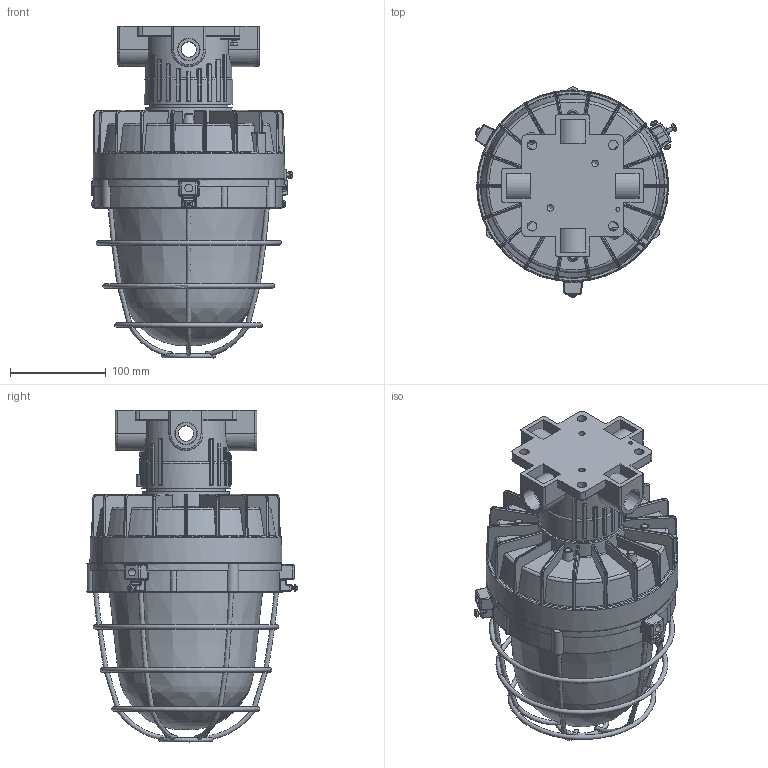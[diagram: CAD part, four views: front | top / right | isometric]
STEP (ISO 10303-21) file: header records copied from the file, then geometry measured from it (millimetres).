
FILE_DESCRIPTION((''),'2;1');
FILE_NAME('\\FILE-SERVER\cortem_klient\Чертежи ПО ИСХ.НОМЕРАМ\Стандарт\СГЖ01\Новая папка\СГЖ01-4960С_П_12DC.stp','2017-04-18T09:34:50',('A.I.Eshenko'),(''),'Autodesk Inventor 2012','Autodesk Inventor 2012','');
FILE_SCHEMA(('AUTOMOTIVE_DESIGN { 1 0 10303 214 1 1 1 1 }'));
Length unit declared in the file: millimetre
Products named in the file (1): СГЖ01-4960С_П_12DC_Внешний контур_1
Bounding box: 210.51 x 219.59 x 347.11 mm (x, y, z)
Surface area: 626856.4 mm2 (no closed solid volume)
Topology: 0 solids, 19 shells, 2151 faces, 5568 edges, 3505 vertices
Faces by surface type: plane 855, cylinder 520, cone 323, bspline 187, torus 161, sphere 81, revolution 24
Full cylindrical faces by diameter (mm): 3 x3, 3.2 x2, 3.242 x11, 3.65 x6, 4 x6, 4.1 x3, 4.4 x2, 4.567 x2, 4.8 x1, 5 x2, 5.1 x1, 6 x7, 6.647 x2, 6.7 x2, 7 x1, 8 x3, 10 x4, 12 x2, 16 x4, 17 x1, 22.6 x4, 25 x1, 78.7 x1, 80 x1, 81.9 x1, 82.7 x1, 86.4 x1, 90.4 x1, 92.6 x1, 135 x1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
Entity records: 73992 total; most frequent: CARTESIAN_POINT 21501, DIRECTION 10612, ORIENTED_EDGE 10554, EDGE_CURVE 5277, AXIS2_PLACEMENT_3D 4248, VERTEX_POINT 3426, EDGE_LOOP 2493, FACE_OUTER_BOUND 2148
